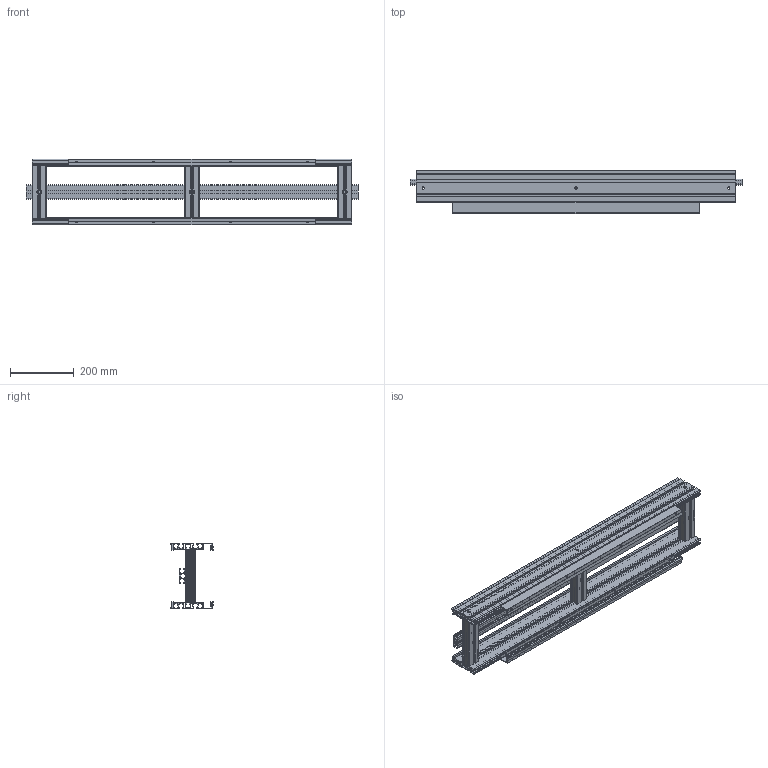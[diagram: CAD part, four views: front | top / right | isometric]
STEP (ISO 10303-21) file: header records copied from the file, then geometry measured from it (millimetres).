
FILE_DESCRIPTION (( 'STEP AP203' ), '1' );
FILE_NAME ('2000.750.001.STEP', '2015-04-15T14:24:58', ( '' ), ( '' ), 'SwSTEP 2.0', 'SolidWorks 2012', '' );
FILE_SCHEMA (( 'CONFIG_CONTROL_DESIGN' ));
Length unit declared in the file: millimetre
Products named in the file (1): 2000.750.001
Bounding box: 1038 x 134.24 x 205 mm (x, y, z)
Volume: 2450031.8 mm3; surface area: 1826358.3 mm2
Topology: 12 solids, 12 shells, 633 faces, 1820 edges, 1202 vertices
Faces by surface type: plane 389, cylinder 228, cone 16
Entity records: 21565 total; most frequent: CARTESIAN_POINT 4352, ORIENTED_EDGE 3640, DIRECTION 3512, EDGE_CURVE 1820, LINE 1324, VECTOR 1324, VERTEX_POINT 1202, AXIS2_PLACEMENT_3D 1094
